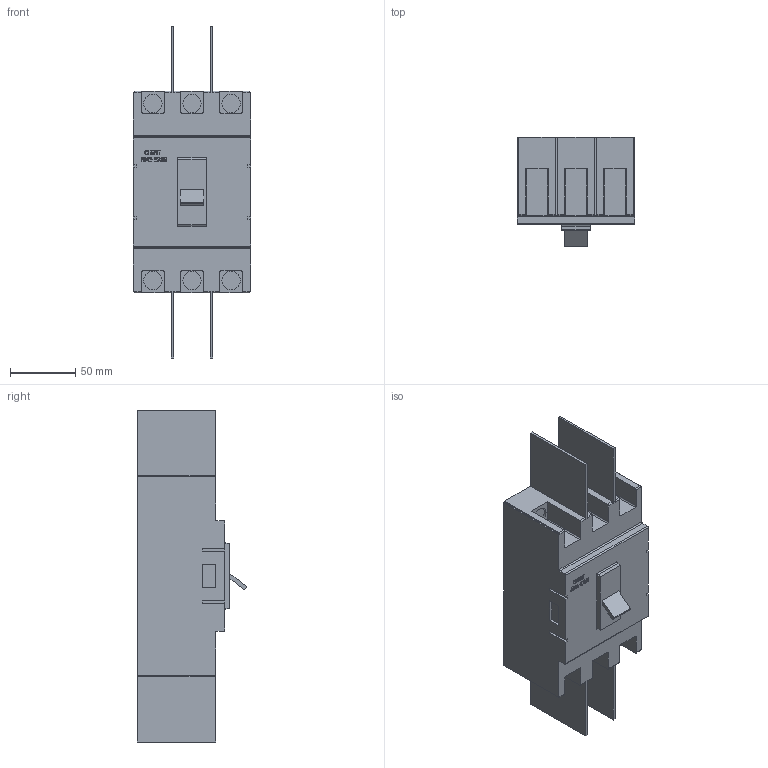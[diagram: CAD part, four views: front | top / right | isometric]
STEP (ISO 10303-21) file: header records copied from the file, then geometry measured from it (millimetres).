
FILE_DESCRIPTION(/* description */ ('','CAx-IF Rec.Pracs.---Representation and Presentation of Product Manufacturing Information (PMI)---3.8---2014-02-18'),/* implementation_level */ '2;1');
FILE_NAME(/* name */ 'C:\Users\ILYA\Desktop\NM1\Авт. выкл. NM1-125S3Р 125A 25кА (CHINT)\Авт. выкл. NM1-125S3Р 125A 25кА (CHINT).stp',/* time_stamp */ '2017-08-19T07:42:17+03:00',/* author */ ('ILYA'),/* organization */ (''),/* preprocessor_version */ 'ST-DEVELOPER v16.1',/* originating_system */ 'Autodesk Inventor 2016',/* authorisation */ '');
FILE_SCHEMA (('AP242_MANAGED_MODEL_BASED_3D_ENGINEERING_MIM_LF { 1 0 10303 442 1 1 4 }'));
Length unit declared in the file: millimetre
Products named in the file (1): Авт. выкл. NM1-12
5S3Р 125A 25кА (CHINT)
Bounding box: 90 x 83.8 x 255 mm (x, y, z)
Volume: 852545.5 mm3; surface area: 93783.3 mm2
Topology: 1 solids, 1 shells, 319 faces, 878 edges, 584 vertices
Faces by surface type: plane 223, bspline 58, cylinder 38
Full cylindrical faces by diameter (mm): 14 x6
Entity records: 10585 total; most frequent: CARTESIAN_POINT 2704, ORIENTED_EDGE 1744, DIRECTION 1356, EDGE_CURVE 872, LINE 680, VECTOR 680, VERTEX_POINT 584, EDGE_LOOP 348
